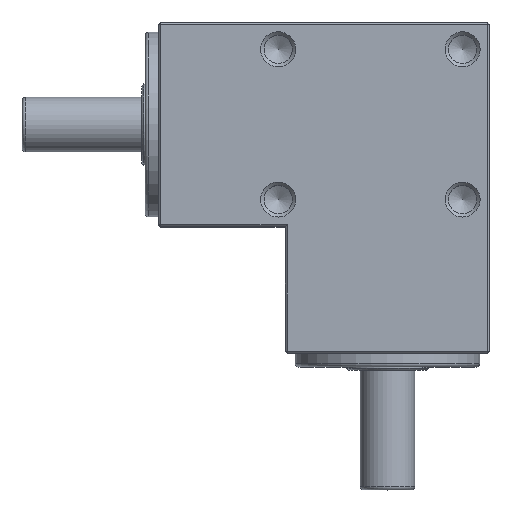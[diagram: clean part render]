
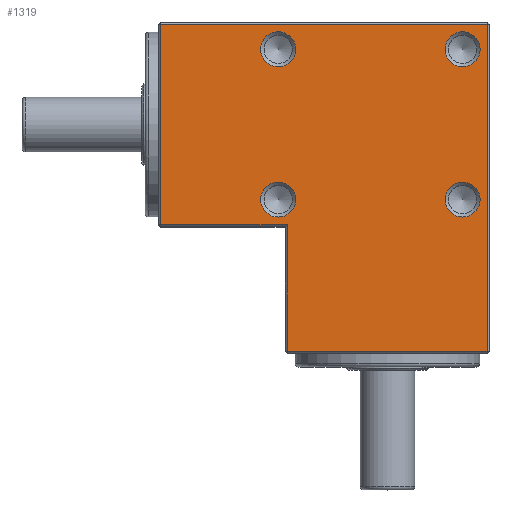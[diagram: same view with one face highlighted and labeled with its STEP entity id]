
A CAD part, top view. The second image highlights one B-rep face of the part: STEP entity #1319.
In plain terms, the highlighted planar face has unit normal (0, 0, 1).
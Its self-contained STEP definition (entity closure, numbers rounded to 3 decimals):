
#1216=CARTESIAN_POINT('',(-13.433,-11.0,30.0));
#1217=VERTEX_POINT('',#1216);
#1218=CARTESIAN_POINT('',(-16.,-11.0,30.0));
#1219=DIRECTION('',(0.0,0.0,1.0));
#1220=DIRECTION('',(-1.0,0.0,0.0));
#1221=AXIS2_PLACEMENT_3D('',#1218,#1219,#1220);
#1222=CIRCLE('',#1221,2.567);
#1223=EDGE_CURVE('',#1217,#1217,#1222,.T.);
#1228=CARTESIAN_POINT('',(0.,-24.25,30.0));
#1229=DIRECTION('',(0.0,0.0,1.0));
#1230=DIRECTION('',(1.0,0.0,0.0));
#1231=AXIS2_PLACEMENT_3D('',#1228,#1229,#1230);
#1232=PLANE('',#1231);
#1233=CARTESIAN_POINT('',(-14.7,-33.2,30.0));
#1234=VERTEX_POINT('',#1233);
#1235=CARTESIAN_POINT('',(-14.7,-14.7,30.0));
#1236=VERTEX_POINT('',#1235);
#1237=CARTESIAN_POINT('',(-14.7,-33.2,30.0));
#1238=DIRECTION('',(0.0,1.0,0.0));
#1239=VECTOR('',#1238,18.5);
#1240=LINE('',#1237,#1239);
#1241=EDGE_CURVE('',#1234,#1236,#1240,.T.);
#1242=ORIENTED_EDGE('',*,*,#1241,.F.);
#1243=CARTESIAN_POINT('',(14.7,-33.2,30.0));
#1244=VERTEX_POINT('',#1243);
#1245=CARTESIAN_POINT('',(14.7,-33.2,30.0));
#1246=DIRECTION('',(-1.0,0.0,0.0));
#1247=VECTOR('',#1246,29.4);
#1248=LINE('',#1245,#1247);
#1249=EDGE_CURVE('',#1244,#1234,#1248,.T.);
#1250=ORIENTED_EDGE('',*,*,#1249,.F.);
#1251=CARTESIAN_POINT('',(14.7,14.7,30.0));
#1252=VERTEX_POINT('',#1251);
#1253=CARTESIAN_POINT('',(14.7,14.7,30.0));
#1254=DIRECTION('',(0.0,-1.0,0.0));
#1255=VECTOR('',#1254,47.9);
#1256=LINE('',#1253,#1255);
#1257=EDGE_CURVE('',#1252,#1244,#1256,.T.);
#1258=ORIENTED_EDGE('',*,*,#1257,.F.);
#1259=CARTESIAN_POINT('',(-33.2,14.7,30.0));
#1260=VERTEX_POINT('',#1259);
#1261=CARTESIAN_POINT('',(-33.2,14.7,30.0));
#1262=DIRECTION('',(1.0,0.0,0.0));
#1263=VECTOR('',#1262,47.9);
#1264=LINE('',#1261,#1263);
#1265=EDGE_CURVE('',#1260,#1252,#1264,.T.);
#1266=ORIENTED_EDGE('',*,*,#1265,.F.);
#1267=CARTESIAN_POINT('',(-33.2,-14.7,30.0));
#1268=VERTEX_POINT('',#1267);
#1269=CARTESIAN_POINT('',(-33.2,-14.7,30.0));
#1270=DIRECTION('',(0.0,1.0,0.0));
#1271=VECTOR('',#1270,29.4);
#1272=LINE('',#1269,#1271);
#1273=EDGE_CURVE('',#1268,#1260,#1272,.T.);
#1274=ORIENTED_EDGE('',*,*,#1273,.F.);
#1275=CARTESIAN_POINT('',(-14.7,-14.7,30.0));
#1276=DIRECTION('',(-1.0,0.0,0.0));
#1277=VECTOR('',#1276,18.5);
#1278=LINE('',#1275,#1277);
#1279=EDGE_CURVE('',#1236,#1268,#1278,.T.);
#1280=ORIENTED_EDGE('',*,*,#1279,.F.);
#1281=EDGE_LOOP('',(#1242,#1250,#1258,#1266,#1274,#1280));
#1282=FACE_OUTER_BOUND('',#1281,.T.);
#1283=CARTESIAN_POINT('',(13.567,-11.0,30.0));
#1284=VERTEX_POINT('',#1283);
#1285=CARTESIAN_POINT('',(11.,-11.0,30.0));
#1286=DIRECTION('',(0.0,0.0,1.0));
#1287=DIRECTION('',(-1.0,0.0,0.0));
#1288=AXIS2_PLACEMENT_3D('',#1285,#1286,#1287);
#1289=CIRCLE('',#1288,2.567);
#1290=EDGE_CURVE('',#1284,#1284,#1289,.T.);
#1291=ORIENTED_EDGE('',*,*,#1290,.F.);
#1292=EDGE_LOOP('',(#1291));
#1293=FACE_BOUND('',#1292,.T.);
#1294=CARTESIAN_POINT('',(-13.433,11.0,30.0));
#1295=VERTEX_POINT('',#1294);
#1296=CARTESIAN_POINT('',(-16.0,11.0,30.0));
#1297=DIRECTION('',(0.0,0.0,1.0));
#1298=DIRECTION('',(-1.0,0.0,0.0));
#1299=AXIS2_PLACEMENT_3D('',#1296,#1297,#1298);
#1300=CIRCLE('',#1299,2.567);
#1301=EDGE_CURVE('',#1295,#1295,#1300,.T.);
#1302=ORIENTED_EDGE('',*,*,#1301,.F.);
#1303=EDGE_LOOP('',(#1302));
#1304=FACE_BOUND('',#1303,.T.);
#1305=CARTESIAN_POINT('',(13.567,11.0,30.0));
#1306=VERTEX_POINT('',#1305);
#1307=CARTESIAN_POINT('',(11.0,11.0,30.0));
#1308=DIRECTION('',(0.0,0.0,1.0));
#1309=DIRECTION('',(-1.0,0.0,0.0));
#1310=AXIS2_PLACEMENT_3D('',#1307,#1308,#1309);
#1311=CIRCLE('',#1310,2.567);
#1312=EDGE_CURVE('',#1306,#1306,#1311,.T.);
#1313=ORIENTED_EDGE('',*,*,#1312,.F.);
#1314=EDGE_LOOP('',(#1313));
#1315=FACE_BOUND('',#1314,.T.);
#1316=ORIENTED_EDGE('',*,*,#1223,.F.);
#1317=EDGE_LOOP('',(#1316));
#1318=FACE_BOUND('',#1317,.T.);
#1319=ADVANCED_FACE('',(#1282,#1293,#1304,#1315,#1318),#1232,.T.);
